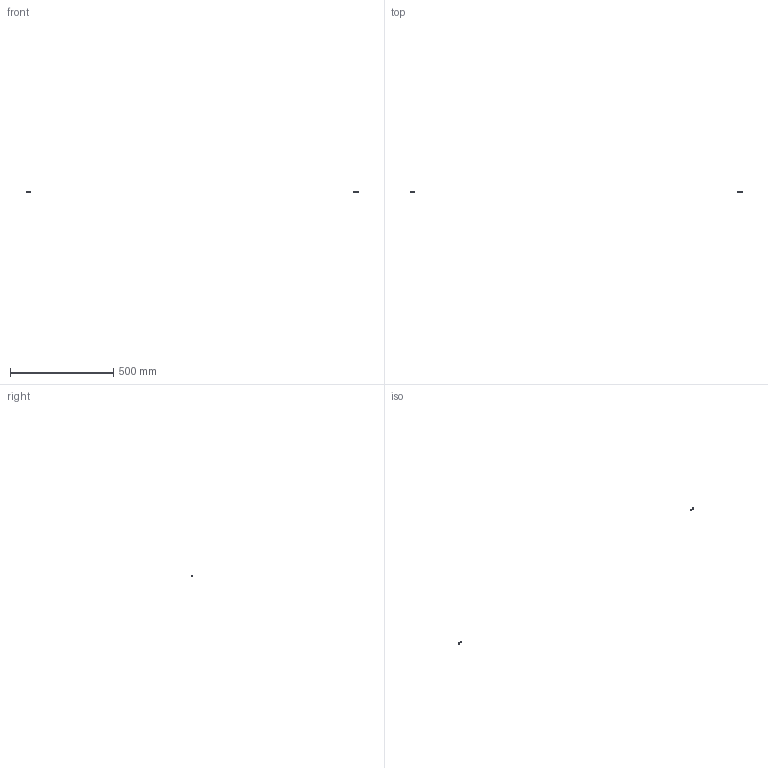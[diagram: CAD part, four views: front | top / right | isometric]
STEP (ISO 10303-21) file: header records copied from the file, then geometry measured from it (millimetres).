
FILE_DESCRIPTION(/* description */ (''),/* implementation_level */ '2;1');
FILE_NAME(/* name */ '4.frame-door#4.8#LBNR3',/* time_stamp */ '2014-12-01T20:13:08+01:00',/* author */ (''),/* organization */ (''),/* preprocessor_version */ 'ST-DEVELOPER v14',/* originating_system */ '',/* authorisation */ '');
FILE_SCHEMA (('AUTOMOTIVE_DESIGN'));
Length unit declared in the file: millimetre
Products named in the file (2): Document; nut DIN934-like, M3
Assembly tree (2 placements, depth 2):
  Document
    nut DIN934-like, M3  x2
Bounding box: 1607.24 x 2.4 x 6.35 mm (x, y, z)
Volume: 202.7 mm3; surface area: 414.7 mm2
Topology: 4 solids, 4 shells, 88 faces, 192 edges, 112 vertices
Faces by surface type: bspline 56, plane 32
Entity records: 4062 total; most frequent: CARTESIAN_POINT 2177, ORIENTED_EDGE 288, PCURVE 288, DEFINITIONAL_REPRESENTATION 288, B_SPLINE_CURVE_WITH_KNOTS 276, SURFACE_CURVE 144, EDGE_CURVE 144, VERTEX_POINT 84
